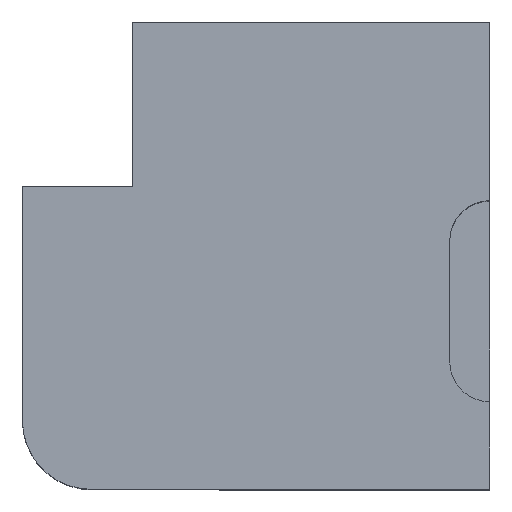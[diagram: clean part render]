
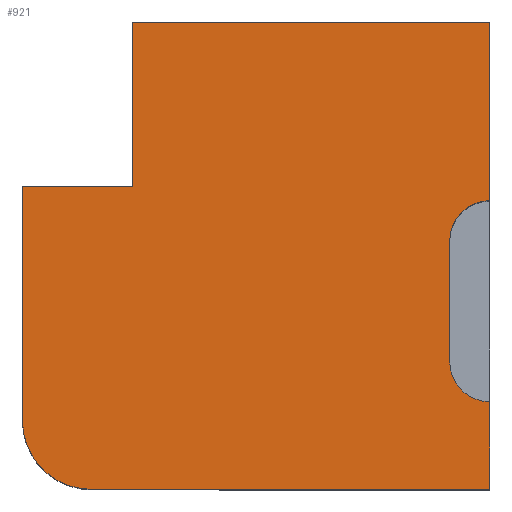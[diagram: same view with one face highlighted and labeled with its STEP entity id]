
A CAD part, top view. The second image highlights one B-rep face of the part: STEP entity #921.
In plain terms, the highlighted planar face has unit normal (0, 0, 1).
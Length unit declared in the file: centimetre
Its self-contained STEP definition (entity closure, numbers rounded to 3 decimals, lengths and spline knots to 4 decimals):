
#7 = AXIS2_PLACEMENT_3D ( 'NONE', #68, #494, #120 ) ;
#19 = LINE ( 'NONE', #384, #138 ) ;
#27 = ORIENTED_EDGE ( 'NONE', *, *, #737, .F. ) ;
#39 = DIRECTION ( 'NONE',  ( 0., 1., 0. ) ) ;
#42 = ORIENTED_EDGE ( 'NONE', *, *, #305, .T. ) ;
#53 = CARTESIAN_POINT ( 'NONE',  ( 0., 147.5857, 1000. ) ) ;
#57 = CARTESIAN_POINT ( 'NONE',  ( 914.4855, 273.0936, 1000. ) ) ;
#66 = VERTEX_POINT ( 'NONE', #849 ) ;
#68 = CARTESIAN_POINT ( 'NONE',  ( 1000., 273.0936, 1000. ) ) ;
#78 = DIRECTION ( 'NONE',  ( 0., 1., 0. ) ) ;
#80 = VECTOR ( 'NONE', #626, 100. ) ;
#97 = VERTEX_POINT ( 'NONE', #338 ) ;
#100 = VECTOR ( 'NONE', #39, 100. ) ;
#113 = LINE ( 'NONE', #249, #477 ) ;
#120 = DIRECTION ( 'NONE',  ( -1., 0., 0. ) ) ;
#125 = ORIENTED_EDGE ( 'NONE', *, *, #905, .F. ) ;
#127 = DIRECTION ( 'NONE',  ( 0., 0., 1. ) ) ;
#132 = CARTESIAN_POINT ( 'NONE',  ( 1000., 532.1229, 1000. ) ) ;
#136 = CARTESIAN_POINT ( 'NONE',  ( 1000., 187.5791, 1000. ) ) ;
#138 = VECTOR ( 'NONE', #586, 100. ) ;
#142 = LINE ( 'NONE', #487, #570 ) ;
#146 = EDGE_CURVE ( 'NONE', #672, #741, #695, .T. ) ;
#150 = EDGE_LOOP ( 'NONE', ( #125, #424, #236, #208, #655, #190, #638, #27, #402, #42, #528 ) ) ;
#154 = CIRCLE ( 'NONE', #451, 85.5145 ) ;
#167 = CARTESIAN_POINT ( 'NONE',  ( 1000., 0., 1000. ) ) ;
#185 = EDGE_CURVE ( 'NONE', #872, #741, #759, .T. ) ;
#188 = VERTEX_POINT ( 'NONE', #471 ) ;
#190 = ORIENTED_EDGE ( 'NONE', *, *, #185, .T. ) ;
#196 = DIRECTION ( 'NONE',  ( 1., 0., 0. ) ) ;
#208 = ORIENTED_EDGE ( 'NONE', *, *, #405, .T. ) ;
#220 = DIRECTION ( 'NONE',  ( 0., 1., 0. ) ) ;
#233 = DIRECTION ( 'NONE',  ( 1., 0., 0. ) ) ;
#236 = ORIENTED_EDGE ( 'NONE', *, *, #468, .T. ) ;
#249 = CARTESIAN_POINT ( 'NONE',  ( 0., 648.4941, 1000. ) ) ;
#265 = VERTEX_POINT ( 'NONE', #547 ) ;
#273 = VECTOR ( 'NONE', #495, 100. ) ;
#298 = DIRECTION ( 'NONE',  ( 0., 0., 1. ) ) ;
#305 = EDGE_CURVE ( 'NONE', #265, #97, #142, .T. ) ;
#338 = CARTESIAN_POINT ( 'NONE',  ( 1000., 1000., 1000. ) ) ;
#355 = FACE_OUTER_BOUND ( 'NONE', #150, .T. ) ;
#359 = CARTESIAN_POINT ( 'NONE',  ( 0., 648.4941, 1000. ) ) ;
#372 = CARTESIAN_POINT ( 'NONE',  ( 914.4855, 532.1229, 1000. ) ) ;
#384 = CARTESIAN_POINT ( 'NONE',  ( 0., 1000., 1000. ) ) ;
#402 = ORIENTED_EDGE ( 'NONE', *, *, #700, .F. ) ;
#405 = EDGE_CURVE ( 'NONE', #793, #469, #523, .T. ) ;
#422 = VECTOR ( 'NONE', #78, 100. ) ;
#424 = ORIENTED_EDGE ( 'NONE', *, *, #661, .F. ) ;
#432 = CARTESIAN_POINT ( 'NONE',  ( 236.0542, 648.4941, 1000. ) ) ;
#436 = CARTESIAN_POINT ( 'NONE',  ( 0., 0., 1000. ) ) ;
#451 = AXIS2_PLACEMENT_3D ( 'NONE', #132, #127, #196 ) ;
#458 = VERTEX_POINT ( 'NONE', #372 ) ;
#468 = EDGE_CURVE ( 'NONE', #915, #793, #19, .T. ) ;
#469 = VERTEX_POINT ( 'NONE', #513 ) ;
#471 = CARTESIAN_POINT ( 'NONE',  ( 236.0542, 1000., 1000. ) ) ;
#477 = VECTOR ( 'NONE', #533, 100. ) ;
#487 = CARTESIAN_POINT ( 'NONE',  ( 1000., 1000., 1000. ) ) ;
#494 = DIRECTION ( 'NONE',  ( 0., 0., 1. ) ) ;
#495 = DIRECTION ( 'NONE',  ( -1., 0., 0. ) ) ;
#513 = CARTESIAN_POINT ( 'NONE',  ( 147.5857, 0., 1000. ) ) ;
#523 = CIRCLE ( 'NONE', #828, 147.5857 ) ;
#528 = ORIENTED_EDGE ( 'NONE', *, *, #755, .T. ) ;
#533 = DIRECTION ( 'NONE',  ( 1., 0., 0. ) ) ;
#547 = CARTESIAN_POINT ( 'NONE',  ( 1000., 617.6374, 1000. ) ) ;
#570 = VECTOR ( 'NONE', #220, 100. ) ;
#584 = CARTESIAN_POINT ( 'NONE',  ( 0., 0., 1000. ) ) ;
#586 = DIRECTION ( 'NONE',  ( 0., -1., 0. ) ) ;
#626 = DIRECTION ( 'NONE',  ( 0., -1., 0. ) ) ;
#631 = CARTESIAN_POINT ( 'NONE',  ( 0., 1000., 1000. ) ) ;
#634 = VECTOR ( 'NONE', #664, 100. ) ;
#638 = ORIENTED_EDGE ( 'NONE', *, *, #146, .F. ) ;
#646 = PLANE ( 'NONE',  #858 ) ;
#655 = ORIENTED_EDGE ( 'NONE', *, *, #864, .T. ) ;
#661 = EDGE_CURVE ( 'NONE', #915, #66, #113, .T. ) ;
#664 = DIRECTION ( 'NONE',  ( 1., 0., 0. ) ) ;
#672 = VERTEX_POINT ( 'NONE', #823 ) ;
#693 = CARTESIAN_POINT ( 'NONE',  ( 1000., 1000., 1000. ) ) ;
#695 = CIRCLE ( 'NONE', #7, 85.5145 ) ;
#700 = EDGE_CURVE ( 'NONE', #265, #458, #154, .T. ) ;
#703 = LINE ( 'NONE', #57, #80 ) ;
#717 = DIRECTION ( 'NONE',  ( 1., 0., 0. ) ) ;
#721 = CARTESIAN_POINT ( 'NONE',  ( 147.5857, 147.5857, 1000. ) ) ;
#737 = EDGE_CURVE ( 'NONE', #458, #672, #703, .T. ) ;
#741 = VERTEX_POINT ( 'NONE', #136 ) ;
#755 = EDGE_CURVE ( 'NONE', #97, #188, #854, .T. ) ;
#759 = LINE ( 'NONE', #693, #100 ) ;
#793 = VERTEX_POINT ( 'NONE', #53 ) ;
#802 = LINE ( 'NONE', #432, #422 ) ;
#823 = CARTESIAN_POINT ( 'NONE',  ( 914.4855, 273.0936, 1000. ) ) ;
#828 = AXIS2_PLACEMENT_3D ( 'NONE', #721, #844, #717 ) ;
#844 = DIRECTION ( 'NONE',  ( 0., 0., 1. ) ) ;
#849 = CARTESIAN_POINT ( 'NONE',  ( 236.0542, 648.4941, 1000. ) ) ;
#854 = LINE ( 'NONE', #631, #273 ) ;
#858 = AXIS2_PLACEMENT_3D ( 'NONE', #584, #298, #233 ) ;
#864 = EDGE_CURVE ( 'NONE', #469, #872, #873, .T. ) ;
#872 = VERTEX_POINT ( 'NONE', #167 ) ;
#873 = LINE ( 'NONE', #436, #634 ) ;
#905 = EDGE_CURVE ( 'NONE', #66, #188, #802, .T. ) ;
#915 = VERTEX_POINT ( 'NONE', #359 ) ;
#921 = ADVANCED_FACE ( 'NONE', ( #355 ), #646, .T. ) ;
